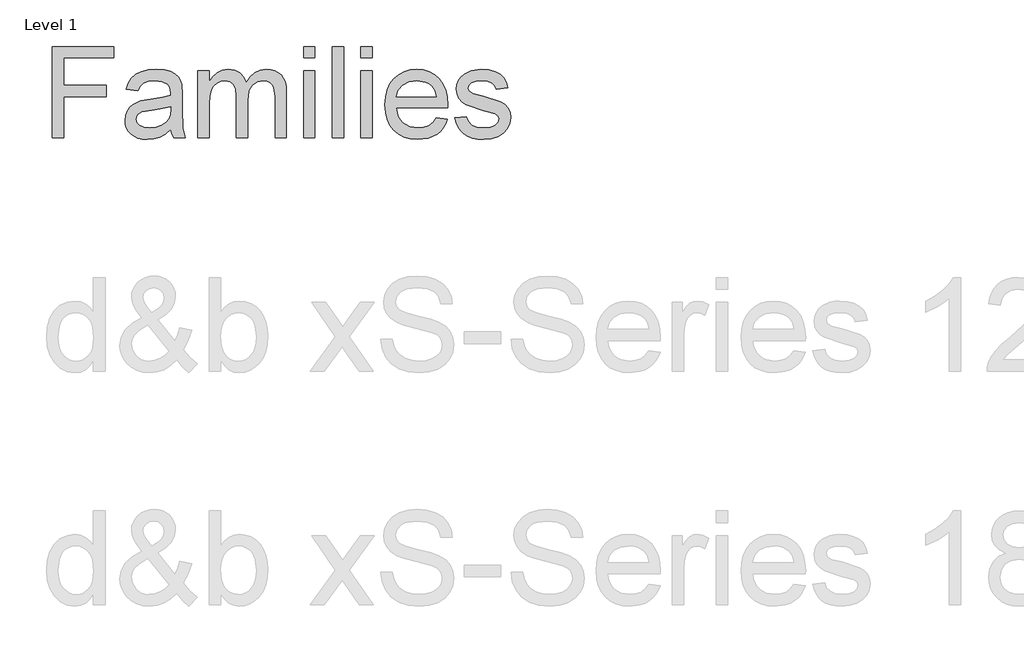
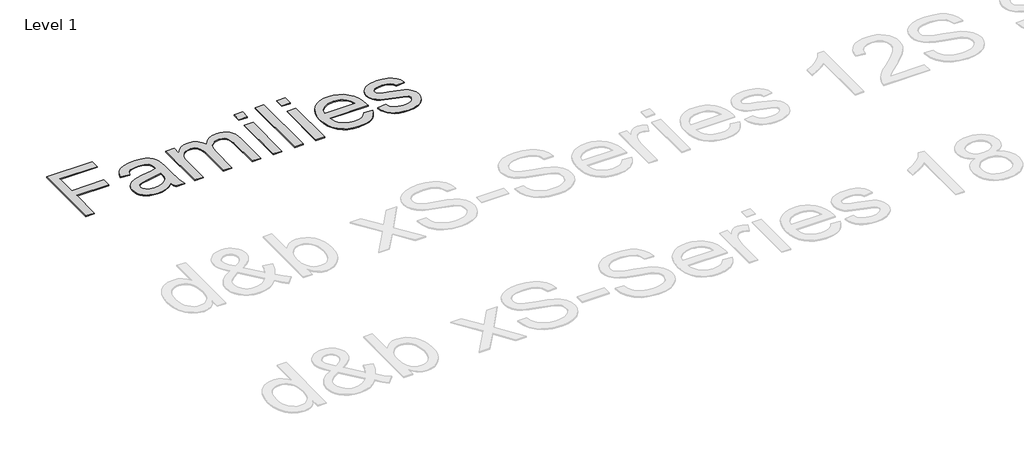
# One storey, part 17 of 55: 1 proxy.
"""IFC4 building model written with IfcOpenShell, lengths in millimetres."""

from ifc_helpers import new_model, si_unit, origin, origin_with_axes, place, context, project, spatial, polyline, outline, extrude, element, save

model = new_model("IFC4")

# Units and contexts
model_context = context("Model", 3, world=origin())
ifc_project = project(units=[si_unit("LENGTHUNIT", "METRE", prefix="MILLI")], contexts=[model_context])

# Site, building, storey
site = spatial("IfcSite", under=ifc_project)
building = spatial("IfcBuilding", under=site)
storey = spatial("IfcBuildingStorey", under=building, Name="Level 1", Elevation=0.0)

# Proxy
placement = place(None, origin())
element("IfcBuildingElementProxy", 1, Name="400mm Arial", ObjectType="400mm Arial", at=placement, inside=storey, context=model_context, shape_type="SweptSolid", body=[
    extrude(outline(polyline([(-21056.720891, -19648.6945164), (-21056.720891, -19256.9369407), (-20793.5087698, -19256.9369407), (-20793.5087698, -19305.9066376), (-21007.7511941, -19305.9066376), (-21007.7511941, -19422.2096679), (-20824.1148304, -19422.2096679), (-20824.1148304, -19471.1793649), (-21007.7511941, -19471.1793649), (-21007.7511941, -19648.6945164), (-21056.720891, -19648.6945164)])), origin_with_axes(), (0.0, 0.0, 1.0), 5.0),
    extrude(outline(polyline([(-20548.660285, -19611.9672437), (-20572.0571836, -19632.02856), (-20596.1475009, -19645.1556907), (-20621.4811893, -19652.4007191), (-20648.6082016, -19654.8157285), (-20670.4120309, -19653.3631362), (-20689.5318522, -19649.0053592), (-20705.9676654, -19641.7423976), (-20719.7194706, -19631.5742513), (-20730.5780466, -19619.1465169), (-20738.3341723, -19605.104791), (-20742.9878477, -19589.4490737), (-20744.5390729, -19572.1793649), (-20742.1957963, -19551.8789388), (-20735.1659668, -19533.4435695), (-20724.3223352, -19517.6623195), (-20710.5376524, -19505.3242513), (-20676.2493001, -19489.2560695), (-20633.879035, -19481.8914861), (-20583.8094327, -19474.144327), (-20548.9472168, -19465.0581528), (-20548.660285, -19454.1547437), (-20552.0317338, -19432.3001035), (-20562.1460804, -19418.0013346), (-20584.7658721, -19407.3848573), (-20616.2805501, -19403.8460316), (-20645.4519516, -19406.2012636), (-20665.8241107, -19413.2669596), (-20679.7163929, -19426.3343128), (-20689.4481638, -19446.6945164), (-20738.4178607, -19440.5733043), (-20729.9175056, -19413.7930013), (-20717.2327282, -19392.7513346), (-20699.1799346, -19376.6592418), (-20674.5755312, -19364.7276604), (-20644.4835568, -19357.339166), (-20609.9680501, -19354.8763346), (-20576.8632916, -19357.0522342), (-20550.6209857, -19363.5799331), (-20530.8346458, -19373.3953924), (-20517.097785, -19385.4345732), (-20507.9876997, -19400.3191613), (-20502.0816865, -19418.6708422), (-20499.690588, -19461.519327), (-20499.690588, -19522.4445164), (-20497.2038456, -19607.5198005), (-20487.4481638, -19648.6945164), (-20536.4178607, -19648.6945164), (-20544.2606638, -19631.6698952), (-20548.660285, -19611.9672437)]), holes=[polyline([(-20548.660285, -19514.0278498), (-20581.5618001, -19522.1814956), (-20627.6621789, -19529.0439482), (-20669.7933342, -19536.9823952), (-20680.7565208, -19542.4101888), (-20688.8743001, -19549.894327), (-20693.8956069, -19558.8609464), (-20695.5693759, -19568.7361831), (-20691.9229507, -19583.2979729), (-20680.9836751, -19595.2295543), (-20662.990659, -19603.1919123), (-20638.1830122, -19605.8460316), (-20611.8809289, -19602.9169359), (-20588.6394516, -19594.129649), (-20569.7975956, -19581.1818507), (-20556.6943759, -19565.771221), (-20550.8840066, -19549.894327), (-20548.9472168, -19527.896221), (-20548.660285, -19514.0278498)])]), origin_with_axes(), (0.0, 0.0, 1.0), 5.0),
    extrude(outline(polyline([(-20432.3572547, -19648.6945164), (-20432.3572547, -19360.9975467), (-20383.3875577, -19360.9975467), (-20383.3875577, -19408.3412967), (-20368.658391, -19386.594256), (-20349.720891, -19369.5576793), (-20327.2206543, -19358.5466708), (-20301.8032774, -19354.8763346), (-20274.5686657, -19358.6184037), (-20252.7379365, -19369.8446111), (-20236.4306448, -19387.8137162), (-20225.7663456, -19411.7844785), (-20207.9167954, -19386.8871656), (-20187.5565918, -19369.1033706), (-20164.6857348, -19358.4330936), (-20139.3042244, -19354.8763346), (-20119.7002057, -19356.3558268), (-20102.4932632, -19360.7943034), (-20087.683397, -19368.1917643), (-20075.2706069, -19378.5482096), (-20065.4581365, -19391.9831942), (-20058.4492291, -19408.6162731), (-20054.2438846, -19428.4474461), (-20052.8421032, -19451.4767134), (-20052.8421032, -19648.6945164), (-20101.8118001, -19648.6945164), (-20101.8118001, -19472.5183801), (-20106.3548872, -19431.630596), (-20112.7391202, -19420.3565666), (-20122.8056448, -19411.4975467), (-20135.7534431, -19405.7589104), (-20150.7814971, -19403.8460316), (-20177.3107348, -19408.7477835), (-20198.9382206, -19423.4530392), (-20207.3279874, -19434.7330463), (-20213.320678, -19448.96606), (-20218.1148304, -19486.2911073), (-20218.1148304, -19648.6945164), (-20267.0845274, -19648.6945164), (-20267.0845274, -19467.0666755), (-20269.9179791, -19439.3777551), (-20278.4183342, -19419.6272816), (-20293.3746552, -19407.7913441), (-20315.5760047, -19403.8460316), (-20334.4417717, -19406.4762399), (-20351.8250577, -19414.3668649), (-20366.1716486, -19427.3266187), (-20375.9273304, -19445.1642134), (-20381.5225009, -19469.9120827), (-20383.3875577, -19503.6026604), (-20383.3875577, -19648.6945164), (-20432.3572547, -19648.6945164)])), origin_with_axes(), (0.0, 0.0, 1.0), 5.0),
    extrude(outline(polyline([(-19979.3875577, -19305.9066376), (-19979.3875577, -19256.9369407), (-19930.4178607, -19256.9369407), (-19930.4178607, -19305.9066376), (-19979.3875577, -19305.9066376)])), origin_with_axes(), (0.0, 0.0, 1.0), 5.0),
    extrude(outline(polyline([(-19979.3875577, -19648.6945164), (-19979.3875577, -19360.9975467), (-19930.4178607, -19360.9975467), (-19930.4178607, -19648.6945164), (-19979.3875577, -19648.6945164)])), origin_with_axes(), (0.0, 0.0, 1.0), 5.0),
    extrude(outline(polyline([(-19856.9633153, -19648.6945164), (-19856.9633153, -19256.9369407), (-19807.9936183, -19256.9369407), (-19807.9936183, -19648.6945164), (-19856.9633153, -19648.6945164)])), origin_with_axes(), (0.0, 0.0, 1.0), 5.0),
    extrude(outline(polyline([(-19734.5390729, -19305.9066376), (-19734.5390729, -19256.9369407), (-19685.5693759, -19256.9369407), (-19685.5693759, -19305.9066376), (-19734.5390729, -19305.9066376)])), origin_with_axes(), (0.0, 0.0, 1.0), 5.0),
    extrude(outline(polyline([(-19734.5390729, -19648.6945164), (-19734.5390729, -19360.9975467), (-19685.5693759, -19360.9975467), (-19685.5693759, -19648.6945164), (-19734.5390729, -19648.6945164)])), origin_with_axes(), (0.0, 0.0, 1.0), 5.0),
    extrude(outline(polyline([(-19410.6886941, -19562.9975467), (-19362.6754365, -19569.1187589), (-19370.0370309, -19588.3491684), (-19379.975034, -19605.2960789), (-19392.4894457, -19619.9594904), (-19407.580266, -19632.3394028), (-19425.0920736, -19642.1727953), (-19444.8694469, -19649.1966471), (-19491.220891, -19654.8157285), (-19521.605775, -19652.3917525), (-19548.6789876, -19645.1198242), (-19572.4405288, -19632.9999437), (-19592.8903986, -19616.0321111), (-19609.3351784, -19594.6885683), (-19621.0814497, -19569.4415571), (-19628.1292125, -19540.2910777), (-19630.4784668, -19507.2371301), (-19628.1053015, -19473.062355), (-19620.9858058, -19442.9404918), (-19609.1199796, -19416.8715406), (-19592.5078229, -19394.8555013), (-19572.1117528, -19377.3646159), (-19548.8941865, -19364.8711263), (-19522.855124, -19357.3750325), (-19493.9945653, -19354.8763346), (-19466.0635461, -19357.3690548), (-19440.8045795, -19364.8472153), (-19418.2176654, -19377.3108161), (-19398.3028039, -19394.7598573), (-19382.0463231, -19416.7280747), (-19370.4345511, -19442.7492039), (-19363.4674879, -19472.8232451), (-19361.1451335, -19506.9501982), (-19361.4320653, -19520.1490619), (-19581.5087698, -19520.1490619), (-19578.6723292, -19539.6903142), (-19573.0323257, -19556.8046017), (-19564.5887592, -19571.4919241), (-19553.3416297, -19583.7522816), (-19524.9234242, -19600.3225941), (-19490.2644516, -19605.8460316), (-19464.2014782, -19603.2875562), (-19442.2511941, -19595.6121301), (-19424.4135994, -19582.3415335), (-19410.6886941, -19562.9975467)]), holes=[polyline([(-19581.5087698, -19471.1793649), (-19410.1148304, -19471.1793649), (-19416.7381732, -19445.3076793), (-19429.721838, -19426.800577), (-19443.076123, -19416.7579634), (-19458.2715539, -19409.5846679), (-19494.1858532, -19403.8460316), (-19527.1949677, -19408.4249852), (-19554.4893569, -19422.161846), (-19573.4627234, -19443.5741329), (-19581.5087698, -19471.1793649)])]), origin_with_axes(), (0.0, 0.0, 1.0), 5.0),
    extrude(outline(polyline([(-19330.5390729, -19562.9975467), (-19281.5693759, -19556.8763346), (-19273.8461278, -19577.8223573), (-19258.9017622, -19593.2210316), (-19236.6406354, -19602.6897816), (-19206.9671032, -19605.8460316), (-19177.6522357, -19602.9528024), (-19157.0409668, -19594.2731149), (-19144.8463645, -19581.6959369), (-19140.7814971, -19567.1102361), (-19144.8702755, -19554.628702), (-19157.1366107, -19545.1121301), (-19207.5409668, -19531.1481149), (-19281.2824441, -19507.1893081), (-19299.9449677, -19495.1501272), (-19313.4666297, -19479.2134558), (-19321.680053, -19460.3955107), (-19324.4178607, -19439.7125089), (-19322.2180501, -19420.7391424), (-19315.6186183, -19403.224346), (-19305.2173399, -19387.8615382), (-19291.6119895, -19375.3441376), (-19260.4798872, -19360.8540808), (-19218.3487319, -19354.8763346), (-19186.4753891, -19357.2793886), (-19158.7625577, -19364.4885505), (-19136.4775198, -19375.7984464), (-19120.8875577, -19390.503702), (-19110.5580122, -19409.6922674), (-19104.0542244, -19434.4520922), (-19153.0239213, -19440.5733043), (-19159.2049109, -19425.1626746), (-19171.4353797, -19413.5538914), (-19189.8348825, -19406.2729965), (-19214.5229744, -19403.8460316), (-19242.6422925, -19406.1653971), (-19261.3885047, -19413.1234937), (-19271.933249, -19423.1661073), (-19275.4481638, -19434.739024), (-19269.6138835, -19448.989971), (-19251.345891, -19459.7977361), (-19209.1669138, -19470.2229255), (-19137.2904933, -19493.2731149), (-19118.3051713, -19504.2960789), (-19103.9107585, -19519.3839104), (-19094.8365397, -19538.5844312), (-19091.8118001, -19561.9454634), (-19095.3625814, -19586.0955581), (-19106.0149251, -19608.8109937), (-19123.3623446, -19628.3104018), (-19146.9983532, -19642.8124142), (-19175.5480691, -19651.8149), (-19207.6366107, -19654.8157285), (-19233.9924938, -19653.369114), (-19257.0127944, -19649.0292702), (-19276.6975127, -19641.7961973), (-19293.0466486, -19631.6698952), (-19306.4009336, -19618.6981859), (-19317.1010994, -19602.9288914), (-19325.1471458, -19584.3620117), (-19330.5390729, -19562.9975467)])), origin_with_axes(), (0.0, 0.0, 1.0), 5.0),
])

save(model, "model.ifc")
